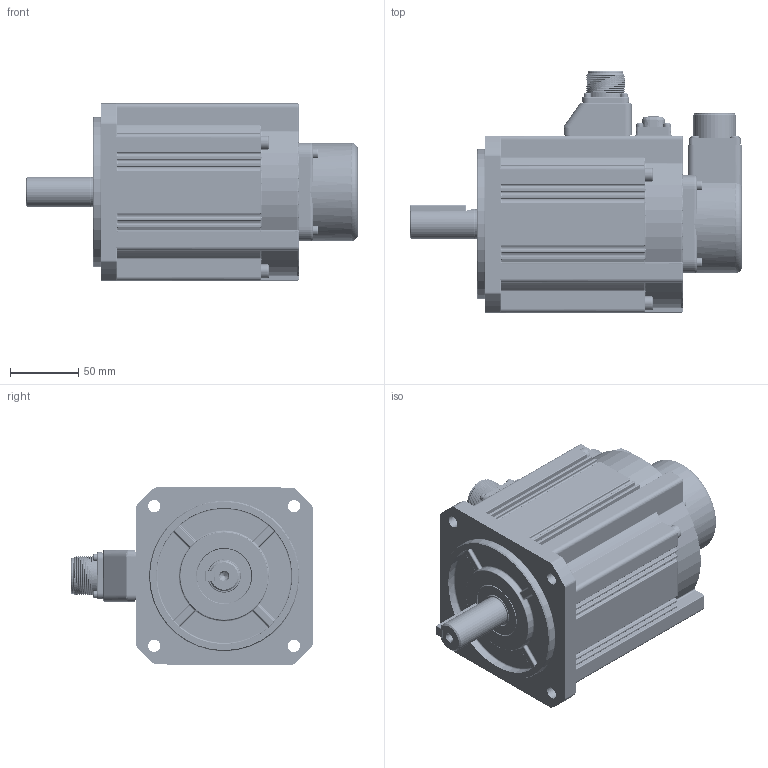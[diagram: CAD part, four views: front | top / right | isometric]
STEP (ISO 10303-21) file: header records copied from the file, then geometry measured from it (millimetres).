
FILE_DESCRIPTION((''),'2;1');
FILE_NAME('11101-01366_ASM','2024-11-12T16:22:47',('0109276'),(''),'CREO PARAMETRIC BY PTC INC, 2019080','CREO PARAMETRIC BY PTC INC, 2019080','');
FILE_SCHEMA(('CONFIG_CONTROL_DESIGN'));
Products named in the file (148): 80040370_AF0; 66670024_AF0; 77840007_AF0; 77840007_AF1; 20CDZZJ-220V_AF0_ASM; 66670024_AF1; 77840007_AF2; 77840007_AF3; 20CDZZJ-220V_AF1_ASM; 66670024_AF2; 77840007_AF4; 77840007_AF5; 20CDZZJ-220V_AF2_ASM; 66670024_AF3; 77840007_AF6; 77840007_AF7; 20CDZZJ-220V_AF3_ASM; 66670024_AF4; 77840007_AF8; 77840007_AF9; 20CDZZJ-220V_AF4_ASM; 66670024_AF5; 77840007_AF10; 77840007_AF11; 20CDZZJ-220V_AF5_ASM; 66670024_AF6; 77840007_AF12; 77840007_AF13; 20CDZZJ-220V_AF6_ASM; 66670024_AF7; 77840007_AF14; 77840007_AF15; 20CDZZJ-220V_AF7_ASM; 66670024_AF8; 77840007_AF16; 77840007_AF17; 20CDZZJ-220V_AF8_ASM; 66670024_AF9; 77840007_AF18; 77840007_AF19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
Assembly tree (153 placements, depth 6):
  11101-01366_ASM
    12112-01174_AF0_ASM
      80040370_AF0
      20CDZZJ-220V_AF0_ASM
        66670024_AF0
        77840007_AF0
        77840007_AF1
      20CDZZJ-220V_AF1_ASM
        66670024_AF1
        77840007_AF2
        77840007_AF3
      20CDZZJ-220V_AF2_ASM
        66670024_AF2
        77840007_AF4
        77840007_AF5
      20CDZZJ-220V_AF3_ASM
        66670024_AF3
        77840007_AF6
        77840007_AF7
      20CDZZJ-220V_AF4_ASM
        66670024_AF4
        77840007_AF8
        77840007_AF9
      20CDZZJ-220V_AF5_ASM
        66670024_AF5
        77840007_AF10
        77840007_AF11
      20CDZZJ-220V_AF6_ASM
        66670024_AF6
        77840007_AF12
        77840007_AF13
      20CDZZJ-220V_AF7_ASM
        66670024_AF7
        77840007_AF14
        77840007_AF15
      20CDZZJ-220V_AF8_ASM
        66670024_AF8
        77840007_AF16
        77840007_AF17
      20CDZZJ-220V_AF9_ASM
        66670024_AF9
        77840007_AF18
        77840007_AF19
      20CDZZJ-220V_AF10_ASM
        66670024_AF10
        77840007_AF20
        77840007_AF21
      20CDZZJ-220V_AF11_ASM
        66670024_AF11
        77840007_AF22
        77840007_AF23
      PCB_PM2301_CV1_AF0
      QBX-20C-2_AF0
      QBX-20C-2_AF1
      QBX-20C-2_AF2
      QBX-20C-2_AF3
      QBX-20C-2_AF4
      QBX-20C-2_AF5
      QBX-20C-2_AF6
      QBX-20C-2_AF7
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Bounding box: 243.7 x 177.26 x 130.09 mm (x, y, z)
Volume: 701667.9 mm3; surface area: 305136.3 mm2
Topology: 38 solids, 67 shells, 6594 faces, 17687 edges, 11372 vertices
Faces by surface type: cylinder 2525, plane 2154, extrusion 812, bspline 457, torus 380, cone 162, sphere 104
Entity records: 302073 total; most frequent: CARTESIAN_POINT 153976, ORIENTED_EDGE 32408, DIRECTION 26442, EDGE_CURVE 16256, VERTEX_POINT 10502, VECTOR 9406, LINE 8594, AXIS2_PLACEMENT_3D 8518
